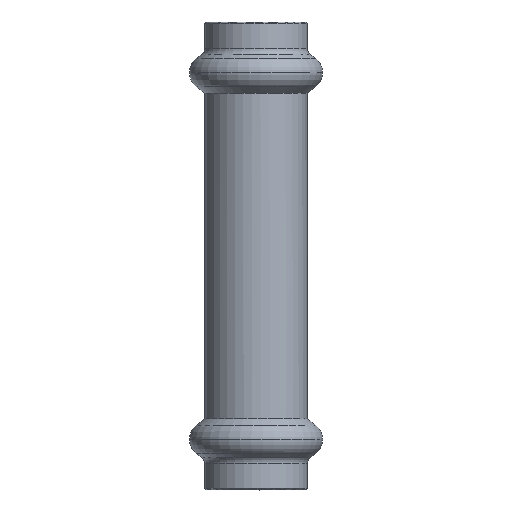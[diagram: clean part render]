
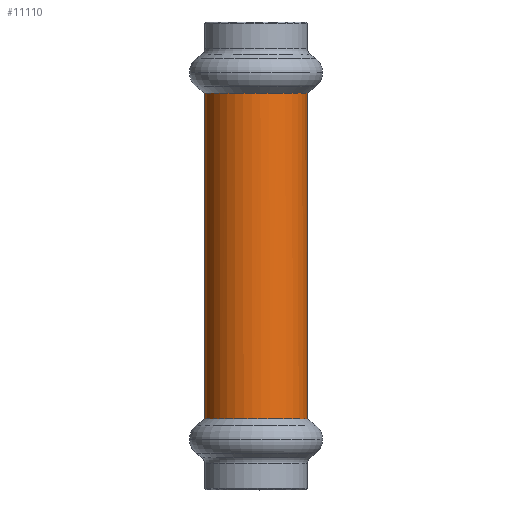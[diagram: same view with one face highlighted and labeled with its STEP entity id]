
A CAD part, top view. The second image highlights one B-rep face of the part: STEP entity #11110.
In plain terms, the highlighted cylindrical face has radius 7.425 mm (diameter 14.85 mm), a partial arc.
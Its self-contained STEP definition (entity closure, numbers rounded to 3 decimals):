
#5000=CARTESIAN_POINT('',(44.368,48.708,
0.));
#5010=DIRECTION('',(0.,1.,0.));
#5020=DIRECTION('',(-0.994,0.,
-0.106));
#5030=AXIS2_PLACEMENT_3D('',#5000,#5010,#5020);
#5040=CIRCLE('',#5030,7.425);
#5050=CARTESIAN_POINT('',(51.751,48.708,
0.789));
#5060=VERTEX_POINT('',#5050);
#5070=CARTESIAN_POINT('',(51.751,48.708,
-0.789));
#5080=VERTEX_POINT('',#5070);
#5090=EDGE_CURVE('',#5060,#5080,#5040,.T.);
#5410=CARTESIAN_POINT('',(44.368,5.655,
0.));
#5420=DIRECTION('',(0.,-1.,0.));
#5430=DIRECTION('',(-0.994,0.,
0.106));
#5440=AXIS2_PLACEMENT_3D('',#5410,#5420,#5430);
#5450=CYLINDRICAL_SURFACE('',#5440,7.425);
#5460=CARTESIAN_POINT('',(36.986,48.708,
0.789));
#5470=VERTEX_POINT('',#5460);
#5500=CARTESIAN_POINT('',(36.986,5.655,
0.789));
#5510=DIRECTION('',(0.,-1.,0.));
#5520=VECTOR('',#5510,1.);
#5530=LINE('',#5500,#5520);
#5540=CARTESIAN_POINT('',(36.986,1.638,
0.789));
#5550=VERTEX_POINT('',#5540);
#5560=EDGE_CURVE('',#5470,#5550,#5530,.T.);
#5580=CARTESIAN_POINT('',(44.368,1.638,0.
));
#5590=DIRECTION('',(0.,-1.,0.));
#5600=DIRECTION('',(0.994,0.,
-0.106));
#5610=AXIS2_PLACEMENT_3D('',#5580,#5590,#5600);
#5620=CIRCLE('',#5610,7.425);
#5630=CARTESIAN_POINT('',(51.751,1.638,
-0.789));
#5640=VERTEX_POINT('',#5630);
#5670=CARTESIAN_POINT('',(51.751,5.655,
-0.789));
#5680=DIRECTION('',(0.,-1.,0.));
#5690=VECTOR('',#5680,1.);
#5700=LINE('',#5670,#5690);
#5710=EDGE_CURVE('',#5080,#5640,#5700,.T.);
#10610=EDGE_CURVE('',#5640,#5550,#5620,.T.);
#10800=EDGE_CURVE('',#5470,#5060,#5040,.T.);
#11040=ORIENTED_EDGE('',*,*,#10610,.F.);
#11050=ORIENTED_EDGE('',*,*,#5560,.T.);
#11060=ORIENTED_EDGE('',*,*,#10800,.F.);
#11070=ORIENTED_EDGE('',*,*,#5090,.F.);
#11080=ORIENTED_EDGE('',*,*,#5710,.F.);
#11090=EDGE_LOOP('',(#11080,#11070,#11060,#11050,#11040));
#11100=FACE_OUTER_BOUND('',#11090,.T.);
#11110=ADVANCED_FACE('',(#11100),#5450,.T.);
